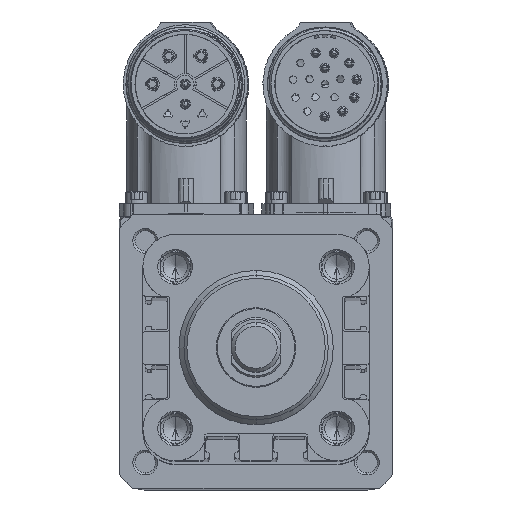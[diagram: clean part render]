
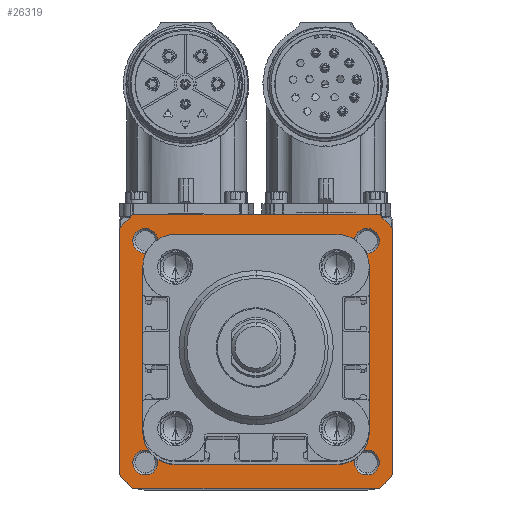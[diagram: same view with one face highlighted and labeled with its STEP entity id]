
A CAD part, top view. The second image highlights one B-rep face of the part: STEP entity #26319.
In plain terms, the highlighted planar face has unit normal (0, 0, 1) as drawn and (0, 0, -1) by its records, which use the part's own axes.
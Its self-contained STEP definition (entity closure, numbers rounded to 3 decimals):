
#24409=CARTESIAN_POINT('',(0.,0.,0.));
#24410=DIRECTION('',(0.,0.,1.));
#24411=DIRECTION('',(0.,1.,0.));
#24412=AXIS2_PLACEMENT_3D('',#24409,#24410,#24411);
#24414=CARTESIAN_POINT('',(0.,0.,0.));
#24415=DIRECTION('',(0.,0.,-1.));
#24416=DIRECTION('',(0.,1.,0.));
#24417=AXIS2_PLACEMENT_3D('',#24414,#24415,#24416);
#24419=CARTESIAN_POINT('',(0.,0.,0.));
#24420=DIRECTION('',(0.,0.,1.));
#24421=DIRECTION('',(-0.669,0.743,0.));
#24422=AXIS2_PLACEMENT_3D('',#24419,#24420,#24421);
#24424=DIRECTION('',(0.,1.,0.));
#24425=VECTOR('',#24424,49.508);
#24426=CARTESIAN_POINT('',(-27.5,-24.754,0.));
#24427=LINE('',#24426,#24425);
#24428=CARTESIAN_POINT('',(0.,0.,0.));
#24429=DIRECTION('',(0.,0.,1.));
#24430=DIRECTION('',(-0.743,-0.669,0.));
#24431=AXIS2_PLACEMENT_3D('',#24428,#24429,#24430);
#24433=DIRECTION('',(-1.,0.,0.));
#24434=VECTOR('',#24433,49.508);
#24435=CARTESIAN_POINT('',(24.754,-27.5,0.));
#24436=LINE('',#24435,#24434);
#24437=CARTESIAN_POINT('',(0.,0.,0.));
#24438=DIRECTION('',(0.,0.,1.));
#24439=DIRECTION('',(0.669,-0.743,0.));
#24440=AXIS2_PLACEMENT_3D('',#24437,#24438,#24439);
#24442=DIRECTION('',(0.,-1.,0.));
#24443=VECTOR('',#24442,49.508);
#24444=CARTESIAN_POINT('',(27.5,24.754,0.));
#24445=LINE('',#24444,#24443);
#24446=CARTESIAN_POINT('',(0.,0.,0.));
#24447=DIRECTION('',(0.,0.,1.));
#24448=DIRECTION('',(0.743,0.669,0.));
#24449=AXIS2_PLACEMENT_3D('',#24446,#24447,#24448);
#24451=DIRECTION('',(1.,0.,0.));
#24452=VECTOR('',#24451,49.508);
#24453=CARTESIAN_POINT('',(-24.754,27.5,0.));
#24454=LINE('',#24453,#24452);
#24455=CARTESIAN_POINT('',(22.274,22.274,0.));
#24456=DIRECTION('',(0.,0.,1.));
#24457=DIRECTION('',(0.,1.,0.));
#24458=AXIS2_PLACEMENT_3D('',#24455,#24456,#24457);
#24460=CARTESIAN_POINT('',(22.274,22.274,0.));
#24461=DIRECTION('',(0.,0.,1.));
#24462=DIRECTION('',(0.,-1.,0.));
#24463=AXIS2_PLACEMENT_3D('',#24460,#24461,#24462);
#24465=CARTESIAN_POINT('',(22.274,-22.274,0.));
#24466=DIRECTION('',(0.,0.,-1.));
#24467=DIRECTION('',(0.,-1.,0.));
#24468=AXIS2_PLACEMENT_3D('',#24465,#24466,#24467);
#24470=CARTESIAN_POINT('',(22.274,-22.274,0.));
#24471=DIRECTION('',(0.,0.,-1.));
#24472=DIRECTION('',(0.,1.,0.));
#24473=AXIS2_PLACEMENT_3D('',#24470,#24471,#24472);
#24475=CARTESIAN_POINT('',(-22.274,22.274,0.));
#24476=DIRECTION('',(0.,0.,1.));
#24477=DIRECTION('',(0.,1.,0.));
#24478=AXIS2_PLACEMENT_3D('',#24475,#24476,#24477);
#24480=CARTESIAN_POINT('',(-22.274,22.274,0.));
#24481=DIRECTION('',(0.,0.,1.));
#24482=DIRECTION('',(0.,-1.,0.));
#24483=AXIS2_PLACEMENT_3D('',#24480,#24481,#24482);
#24485=CARTESIAN_POINT('',(-22.274,-22.274,0.));
#24486=DIRECTION('',(0.,0.,-1.));
#24487=DIRECTION('',(0.,-1.,0.));
#24488=AXIS2_PLACEMENT_3D('',#24485,#24486,#24487);
#24490=CARTESIAN_POINT('',(-22.274,-22.274,0.));
#24491=DIRECTION('',(0.,0.,-1.));
#24492=DIRECTION('',(0.,1.,0.));
#24493=AXIS2_PLACEMENT_3D('',#24490,#24491,#24492);
#25339=CARTESIAN_POINT('',(0.,22.289,0.));
#25340=VERTEX_POINT('',#25339);
#25347=CARTESIAN_POINT('',(0.,-22.289,0.));
#25348=VERTEX_POINT('',#25347);
#25349=CARTESIAN_POINT('',(-24.754,27.5,0.));
#25350=CARTESIAN_POINT('',(-27.5,24.754,0.));
#25351=VERTEX_POINT('',#25349);
#25352=VERTEX_POINT('',#25350);
#25353=CARTESIAN_POINT('',(24.754,27.5,0.));
#25354=VERTEX_POINT('',#25353);
#25355=CARTESIAN_POINT('',(27.5,24.754,0.));
#25356=VERTEX_POINT('',#25355);
#25357=CARTESIAN_POINT('',(27.5,-24.754,0.));
#25358=VERTEX_POINT('',#25357);
#25359=CARTESIAN_POINT('',(24.754,-27.5,0.));
#25360=VERTEX_POINT('',#25359);
#25361=CARTESIAN_POINT('',(-24.754,-27.5,0.));
#25362=VERTEX_POINT('',#25361);
#25363=CARTESIAN_POINT('',(-27.5,-24.754,0.));
#25364=VERTEX_POINT('',#25363);
#25389=CARTESIAN_POINT('',(22.274,24.774,0.));
#25390=CARTESIAN_POINT('',(22.274,19.774,0.));
#25391=VERTEX_POINT('',#25389);
#25392=VERTEX_POINT('',#25390);
#25692=CARTESIAN_POINT('',(22.274,-24.774,0.));
#25693=CARTESIAN_POINT('',(22.274,-19.774,0.));
#25694=VERTEX_POINT('',#25692);
#25695=VERTEX_POINT('',#25693);
#25708=CARTESIAN_POINT('',(-22.274,24.774,0.));
#25709=CARTESIAN_POINT('',(-22.274,19.774,0.));
#25710=VERTEX_POINT('',#25708);
#25711=VERTEX_POINT('',#25709);
#25724=CARTESIAN_POINT('',(-22.274,-24.774,0.));
#25725=CARTESIAN_POINT('',(-22.274,-19.774,0.));
#25726=VERTEX_POINT('',#25724);
#25727=VERTEX_POINT('',#25725);
#26267=CARTESIAN_POINT('',(0.,0.,0.));
#26268=DIRECTION('',(0.,0.,1.));
#26269=DIRECTION('',(0.,1.,0.));
#26270=AXIS2_PLACEMENT_3D('',#26267,#26268,#26269);
#26271=PLANE('',#26270);
#26272=ORIENTED_EDGE('',*,*,#26257,.T.);
#26274=ORIENTED_EDGE('',*,*,#26273,.F.);
#26276=ORIENTED_EDGE('',*,*,#26275,.T.);
#26278=ORIENTED_EDGE('',*,*,#26277,.F.);
#26280=ORIENTED_EDGE('',*,*,#26279,.T.);
#26282=ORIENTED_EDGE('',*,*,#26281,.F.);
#26284=ORIENTED_EDGE('',*,*,#26283,.T.);
#26286=ORIENTED_EDGE('',*,*,#26285,.F.);
#26287=EDGE_LOOP('',(#26272,#26274,#26276,#26278,#26280,#26282,#26284,#26286));
#26288=FACE_OUTER_BOUND('',#26287,.F.);
#26290=ORIENTED_EDGE('',*,*,#26289,.F.);
#26292=ORIENTED_EDGE('',*,*,#26291,.T.);
#26293=EDGE_LOOP('',(#26290,#26292));
#26294=FACE_BOUND('',#26293,.F.);
#26296=ORIENTED_EDGE('',*,*,#26295,.F.);
#26298=ORIENTED_EDGE('',*,*,#26297,.F.);
#26299=EDGE_LOOP('',(#26296,#26298));
#26300=FACE_BOUND('',#26299,.F.);
#26302=ORIENTED_EDGE('',*,*,#26301,.T.);
#26304=ORIENTED_EDGE('',*,*,#26303,.T.);
#26305=EDGE_LOOP('',(#26302,#26304));
#26306=FACE_BOUND('',#26305,.F.);
#26308=ORIENTED_EDGE('',*,*,#26307,.F.);
#26310=ORIENTED_EDGE('',*,*,#26309,.F.);
#26311=EDGE_LOOP('',(#26308,#26310));
#26312=FACE_BOUND('',#26311,.F.);
#26314=ORIENTED_EDGE('',*,*,#26313,.T.);
#26316=ORIENTED_EDGE('',*,*,#26315,.T.);
#26317=EDGE_LOOP('',(#26314,#26316));
#26318=FACE_BOUND('',#26317,.F.);
#26319=ADVANCED_FACE('',(#26288,#26294,#26300,#26306,#26312,#26318),#26271,.F.);
#24413=CIRCLE('',#24412,22.289);
#24418=CIRCLE('',#24417,22.289);
#24423=CIRCLE('',#24422,37.);
#24432=CIRCLE('',#24431,37.);
#24441=CIRCLE('',#24440,37.);
#24450=CIRCLE('',#24449,37.);
#24459=CIRCLE('',#24458,2.5);
#24464=CIRCLE('',#24463,2.5);
#24469=CIRCLE('',#24468,2.5);
#24474=CIRCLE('',#24473,2.5);
#24479=CIRCLE('',#24478,2.5);
#24484=CIRCLE('',#24483,2.5);
#24489=CIRCLE('',#24488,2.5);
#24494=CIRCLE('',#24493,2.5);
#26257=EDGE_CURVE('',#25351,#25352,#24423,.T.);
#26273=EDGE_CURVE('',#25364,#25352,#24427,.T.);
#26275=EDGE_CURVE('',#25364,#25362,#24432,.T.);
#26277=EDGE_CURVE('',#25360,#25362,#24436,.T.);
#26279=EDGE_CURVE('',#25360,#25358,#24441,.T.);
#26281=EDGE_CURVE('',#25356,#25358,#24445,.T.);
#26283=EDGE_CURVE('',#25356,#25354,#24450,.T.);
#26285=EDGE_CURVE('',#25351,#25354,#24454,.T.);
#26289=EDGE_CURVE('',#25340,#25348,#24413,.T.);
#26291=EDGE_CURVE('',#25340,#25348,#24418,.T.);
#26295=EDGE_CURVE('',#25391,#25392,#24459,.T.);
#26297=EDGE_CURVE('',#25392,#25391,#24464,.T.);
#26301=EDGE_CURVE('',#25694,#25695,#24469,.T.);
#26303=EDGE_CURVE('',#25695,#25694,#24474,.T.);
#26307=EDGE_CURVE('',#25710,#25711,#24479,.T.);
#26309=EDGE_CURVE('',#25711,#25710,#24484,.T.);
#26313=EDGE_CURVE('',#25726,#25727,#24489,.T.);
#26315=EDGE_CURVE('',#25727,#25726,#24494,.T.);
